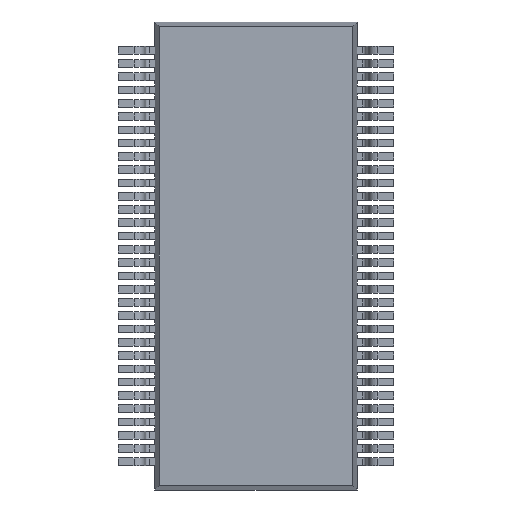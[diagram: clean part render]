
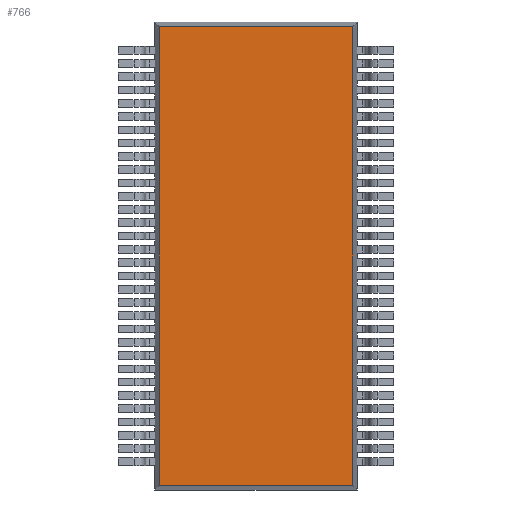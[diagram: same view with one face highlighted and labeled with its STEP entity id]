
A CAD part, front view. The second image highlights one B-rep face of the part: STEP entity #766.
In plain terms, the highlighted planar face has unit normal (0, -1, 0).
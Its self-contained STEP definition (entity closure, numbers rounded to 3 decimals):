
#119 = EDGE_CURVE ( 'NONE', #8149, #8151, #9279, .T. ) ;
#129 = EDGE_CURVE ( 'NONE', #8165, #8156, #9319, .T. ) ;
#766 = ADVANCED_FACE ( 'NONE', ( #17515 ), #17156, .F. ) ;
#5524 = ORIENTED_EDGE ( 'NONE', *, *, #119, .T. ) ;
#5525 = ORIENTED_EDGE ( 'NONE', *, *, #40829, .T. ) ;
#5526 = ORIENTED_EDGE ( 'NONE', *, *, #129, .T. ) ;
#5527 = ORIENTED_EDGE ( 'NONE', *, *, #40740, .T. ) ;
#8149 = VERTEX_POINT ( 'NONE', #37018 ) ;
#8151 = VERTEX_POINT ( 'NONE', #37020 ) ;
#8156 = VERTEX_POINT ( 'NONE', #37025 ) ;
#8165 = VERTEX_POINT ( 'NONE', #37034 ) ;
#9279 = LINE ( 'NONE', #9946, #9289 ) ;
#9289 = VECTOR ( 'NONE', #9954, 1000. ) ;
#9319 = LINE ( 'NONE', #9968, #9329 ) ;
#9329 = VECTOR ( 'NONE', #9974, 1000. ) ;
#9946 = CARTESIAN_POINT ( 'NONE',  ( -2.909, 0.1, 7.05 ) ) ;
#9954 = DIRECTION ( 'NONE',  ( 0., 0., -1. ) ) ;
#9968 = CARTESIAN_POINT ( 'NONE',  ( 2.909, 0.1, 7.05 ) ) ;
#9974 = DIRECTION ( 'NONE',  ( 0., 0., 1. ) ) ;
#13839 = AXIS2_PLACEMENT_3D ( 'NONE', #17147, #17158, #17159 ) ;
#17147 = CARTESIAN_POINT ( 'NONE',  ( 0., 0.1, 0. ) ) ;
#17156 = PLANE ( 'NONE',  #13839 ) ;
#17158 = DIRECTION ( 'NONE',  ( 0., 1., 0. ) ) ;
#17159 = DIRECTION ( 'NONE',  ( 0., 0., 1. ) ) ;
#17515 = FACE_OUTER_BOUND ( 'NONE', #40380, .T. ) ;
#35825 = LINE ( 'NONE', #38112, #35827 ) ;
#35827 = VECTOR ( 'NONE', #38113, 1000. ) ;
#35995 = LINE ( 'NONE', #38307, #35998 ) ;
#35998 = VECTOR ( 'NONE', #38308, 1000. ) ;
#37018 = CARTESIAN_POINT ( 'NONE',  ( -2.909, 0.1, 6.909 ) ) ;
#37020 = CARTESIAN_POINT ( 'NONE',  ( -2.909, 0.1, -6.909 ) ) ;
#37025 = CARTESIAN_POINT ( 'NONE',  ( 2.909, 0.1, 6.909 ) ) ;
#37034 = CARTESIAN_POINT ( 'NONE',  ( 2.909, 0.1, -6.909 ) ) ;
#38112 = CARTESIAN_POINT ( 'NONE',  ( 3.05, 0.1, 6.909 ) ) ;
#38113 = DIRECTION ( 'NONE',  ( -1., 0., 0. ) ) ;
#38307 = CARTESIAN_POINT ( 'NONE',  ( 3.05, 0.1, -6.909 ) ) ;
#38308 = DIRECTION ( 'NONE',  ( 1., 0., 0. ) ) ;
#40380 = EDGE_LOOP ( 'NONE', ( #5524, #5525, #5526, #5527 ) ) ;
#40740 = EDGE_CURVE ( 'NONE', #8156, #8149, #35825, .T. ) ;
#40829 = EDGE_CURVE ( 'NONE', #8151, #8165, #35995, .T. ) ;
